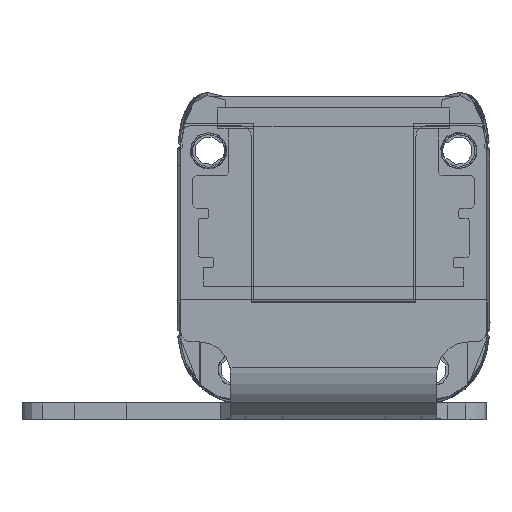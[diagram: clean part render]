
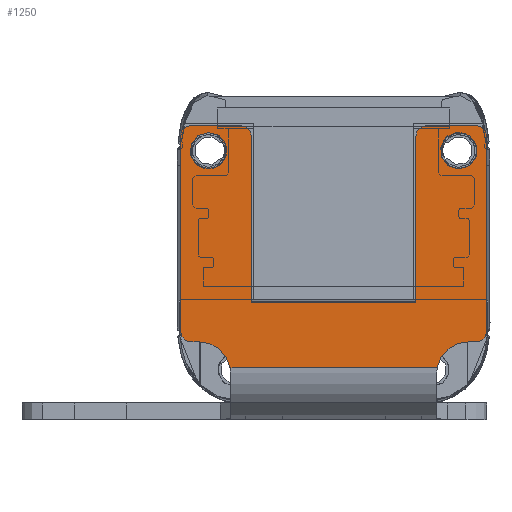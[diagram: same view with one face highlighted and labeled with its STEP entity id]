
A CAD part, front view. The second image highlights one B-rep face of the part: STEP entity #1250.
In plain terms, the highlighted planar face has unit normal (0, -1, 0).
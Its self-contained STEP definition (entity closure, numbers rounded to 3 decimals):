
#1250=ADVANCED_FACE('',(#1940,#1941,#1942),#1528,.T.);
#1528=PLANE('',#9483);
#1833=CIRCLE('',#9473,3.);
#1834=CIRCLE('',#9474,1.);
#1835=CIRCLE('',#9475,1.);
#1836=CIRCLE('',#9476,1.);
#1837=CIRCLE('',#9477,1.);
#1838=CIRCLE('',#9478,1.);
#1839=CIRCLE('',#9479,1.);
#1840=CIRCLE('',#9480,3.);
#1841=CIRCLE('',#9481,1.75);
#1842=CIRCLE('',#9482,1.75);
#1940=FACE_BOUND('',#2406,.T.);
#1941=FACE_BOUND('',#2407,.T.);
#1942=FACE_BOUND('',#2408,.T.);
#2406=EDGE_LOOP('',(#4783,#4784,#4785,#4786,#4787,#4788,#4789,#4790,#4791,
#4792,#4793,#4794,#4795,#4796,#4797,#4798,#4799,#4800));
#2407=EDGE_LOOP('',(#4801));
#2408=EDGE_LOOP('',(#4802));
#4783=ORIENTED_EDGE('',*,*,#7020,.T.);
#4784=ORIENTED_EDGE('',*,*,#7021,.F.);
#4785=ORIENTED_EDGE('',*,*,#7022,.T.);
#4786=ORIENTED_EDGE('',*,*,#7023,.T.);
#4787=ORIENTED_EDGE('',*,*,#7024,.T.);
#4788=ORIENTED_EDGE('',*,*,#7025,.T.);
#4789=ORIENTED_EDGE('',*,*,#7026,.T.);
#4790=ORIENTED_EDGE('',*,*,#7027,.F.);
#4791=ORIENTED_EDGE('',*,*,#7028,.F.);
#4792=ORIENTED_EDGE('',*,*,#7029,.T.);
#4793=ORIENTED_EDGE('',*,*,#7030,.T.);
#4794=ORIENTED_EDGE('',*,*,#7031,.F.);
#4795=ORIENTED_EDGE('',*,*,#7032,.T.);
#4796=ORIENTED_EDGE('',*,*,#7033,.F.);
#4797=ORIENTED_EDGE('',*,*,#7034,.T.);
#4798=ORIENTED_EDGE('',*,*,#7035,.T.);
#4799=ORIENTED_EDGE('',*,*,#7036,.T.);
#4800=ORIENTED_EDGE('',*,*,#7037,.T.);
#4801=ORIENTED_EDGE('',*,*,#7038,.F.);
#4802=ORIENTED_EDGE('',*,*,#7039,.T.);
#5794=VERTEX_POINT('',#15498);
#5795=VERTEX_POINT('',#15499);
#5796=VERTEX_POINT('',#15501);
#5797=VERTEX_POINT('',#15503);
#5798=VERTEX_POINT('',#15505);
#5799=VERTEX_POINT('',#15507);
#5800=VERTEX_POINT('',#15509);
#5801=VERTEX_POINT('',#15511);
#5802=VERTEX_POINT('',#15513);
#5803=VERTEX_POINT('',#15515);
#5804=VERTEX_POINT('',#15517);
#5805=VERTEX_POINT('',#15519);
#5806=VERTEX_POINT('',#15521);
#5807=VERTEX_POINT('',#15523);
#5808=VERTEX_POINT('',#15525);
#5809=VERTEX_POINT('',#15527);
#5810=VERTEX_POINT('',#15529);
#5811=VERTEX_POINT('',#15531);
#5812=VERTEX_POINT('',#15534);
#5813=VERTEX_POINT('',#15536);
#7020=EDGE_CURVE('',#5794,#5795,#1833,.T.);
#7021=EDGE_CURVE('',#5796,#5795,#7899,.T.);
#7022=EDGE_CURVE('',#5796,#5797,#1834,.T.);
#7023=EDGE_CURVE('',#5797,#5798,#7900,.T.);
#7024=EDGE_CURVE('',#5798,#5799,#1835,.T.);
#7025=EDGE_CURVE('',#5799,#5800,#7901,.T.);
#7026=EDGE_CURVE('',#5800,#5801,#1836,.T.);
#7027=EDGE_CURVE('',#5802,#5801,#7902,.T.);
#7028=EDGE_CURVE('',#5803,#5802,#7903,.T.);
#7029=EDGE_CURVE('',#5803,#5804,#7904,.T.);
#7030=EDGE_CURVE('',#5804,#5805,#1837,.T.);
#7031=EDGE_CURVE('',#5806,#5805,#7905,.T.);
#7032=EDGE_CURVE('',#5806,#5807,#1838,.T.);
#7033=EDGE_CURVE('',#5808,#5807,#7906,.T.);
#7034=EDGE_CURVE('',#5808,#5809,#1839,.T.);
#7035=EDGE_CURVE('',#5809,#5810,#7907,.T.);
#7036=EDGE_CURVE('',#5810,#5811,#1840,.T.);
#7037=EDGE_CURVE('',#5811,#5794,#7908,.T.);
#7038=EDGE_CURVE('',#5812,#5812,#1841,.T.);
#7039=EDGE_CURVE('',#5813,#5813,#1842,.T.);
#7899=LINE('',#15500,#8755);
#7900=LINE('',#15504,#8756);
#7901=LINE('',#15508,#8757);
#7902=LINE('',#15512,#8758);
#7903=LINE('',#15514,#8759);
#7904=LINE('',#15516,#8760);
#7905=LINE('',#15520,#8761);
#7906=LINE('',#15524,#8762);
#7907=LINE('',#15528,#8763);
#7908=LINE('',#15532,#8764);
#8755=VECTOR('',#11674,1.);
#8756=VECTOR('',#11677,1.);
#8757=VECTOR('',#11680,1.);
#8758=VECTOR('',#11683,1.);
#8759=VECTOR('',#11684,1.);
#8760=VECTOR('',#11685,1.);
#8761=VECTOR('',#11688,1.);
#8762=VECTOR('',#11691,1.);
#8763=VECTOR('',#11694,1.);
#8764=VECTOR('',#11697,1.);
#9473=AXIS2_PLACEMENT_3D('',#15497,#11672,#11673);
#9474=AXIS2_PLACEMENT_3D('',#15502,#11675,#11676);
#9475=AXIS2_PLACEMENT_3D('',#15506,#11678,#11679);
#9476=AXIS2_PLACEMENT_3D('',#15510,#11681,#11682);
#9477=AXIS2_PLACEMENT_3D('',#15518,#11686,#11687);
#9478=AXIS2_PLACEMENT_3D('',#15522,#11689,#11690);
#9479=AXIS2_PLACEMENT_3D('',#15526,#11692,#11693);
#9480=AXIS2_PLACEMENT_3D('',#15530,#11695,#11696);
#9481=AXIS2_PLACEMENT_3D('',#15533,#11698,#11699);
#9482=AXIS2_PLACEMENT_3D('',#15535,#11700,#11701);
#9483=AXIS2_PLACEMENT_3D('',#15537,#11702,#11703);
#11672=DIRECTION('',(0.,1.,0.));
#11673=DIRECTION('',(0.,0.,1.));
#11674=DIRECTION('',(-1.,0.,0.));
#11675=DIRECTION('',(0.,-1.,0.));
#11676=DIRECTION('',(0.,0.,1.));
#11677=DIRECTION('',(0.,0.,1.));
#11678=DIRECTION('',(0.,-1.,0.));
#11679=DIRECTION('',(0.,0.,-1.));
#11680=DIRECTION('',(-1.,0.,0.));
#11681=DIRECTION('',(0.,-1.,0.));
#11682=DIRECTION('',(0.,0.,-1.));
#11683=DIRECTION('',(0.,0.,1.));
#11684=DIRECTION('',(1.,0.,0.));
#11685=DIRECTION('',(0.,0.,1.));
#11686=DIRECTION('',(0.,-1.,0.));
#11687=DIRECTION('',(0.,0.,1.));
#11688=DIRECTION('',(1.,0.,0.));
#11689=DIRECTION('',(0.,-1.,0.));
#11690=DIRECTION('',(0.,0.,1.));
#11691=DIRECTION('',(0.,0.,1.));
#11692=DIRECTION('',(0.,-1.,0.));
#11693=DIRECTION('',(0.,0.,1.));
#11694=DIRECTION('',(1.,0.,0.));
#11695=DIRECTION('',(0.,1.,0.));
#11696=DIRECTION('',(0.,0.,1.));
#11697=DIRECTION('',(1.,0.,0.));
#11698=DIRECTION('',(0.,-1.,0.));
#11699=DIRECTION('',(0.,0.,1.));
#11700=DIRECTION('',(0.,1.,0.));
#11701=DIRECTION('',(0.,0.,-1.));
#11702=DIRECTION('',(0.,-1.,0.));
#11703=DIRECTION('',(-1.,0.,0.));
#15497=CARTESIAN_POINT('',(12.89,-374.2,-139.533));
#15498=CARTESIAN_POINT('',(9.939,-374.2,-138.994));
#15499=CARTESIAN_POINT('',(12.89,-374.2,-136.533));
#15500=CARTESIAN_POINT('',(-7.89,-374.2,-136.533));
#15501=CARTESIAN_POINT('',(13.69,-374.2,-136.533));
#15502=CARTESIAN_POINT('',(13.69,-374.2,-135.533));
#15503=CARTESIAN_POINT('',(14.69,-374.2,-135.533));
#15504=CARTESIAN_POINT('',(14.69,-374.2,-115.6));
#15505=CARTESIAN_POINT('',(14.69,-374.2,-116.8));
#15506=CARTESIAN_POINT('',(13.69,-374.2,-116.8));
#15507=CARTESIAN_POINT('',(13.69,-374.2,-115.8));
#15508=CARTESIAN_POINT('',(7.89,-374.2,-115.8));
#15509=CARTESIAN_POINT('',(8.89,-374.2,-115.8));
#15510=CARTESIAN_POINT('',(8.89,-374.2,-116.8));
#15511=CARTESIAN_POINT('',(7.89,-374.2,-116.8));
#15512=CARTESIAN_POINT('',(7.89,-374.2,-115.6));
#15513=CARTESIAN_POINT('',(7.89,-374.2,-132.733));
#15514=CARTESIAN_POINT('',(-9.89,-374.2,-132.733));
#15515=CARTESIAN_POINT('',(-7.89,-374.2,-132.733));
#15516=CARTESIAN_POINT('',(-7.89,-374.2,-115.6));
#15517=CARTESIAN_POINT('',(-7.89,-374.2,-116.8));
#15518=CARTESIAN_POINT('',(-8.89,-374.2,-116.8));
#15519=CARTESIAN_POINT('',(-8.89,-374.2,-115.8));
#15520=CARTESIAN_POINT('',(-7.89,-374.2,-115.8));
#15521=CARTESIAN_POINT('',(-13.69,-374.2,-115.8));
#15522=CARTESIAN_POINT('',(-13.69,-374.2,-116.8));
#15523=CARTESIAN_POINT('',(-14.69,-374.2,-116.8));
#15524=CARTESIAN_POINT('',(-14.69,-374.2,-115.6));
#15525=CARTESIAN_POINT('',(-14.69,-374.2,-135.533));
#15526=CARTESIAN_POINT('',(-13.69,-374.2,-135.533));
#15527=CARTESIAN_POINT('',(-13.69,-374.2,-136.533));
#15528=CARTESIAN_POINT('',(-7.89,-374.2,-136.533));
#15529=CARTESIAN_POINT('',(-12.89,-374.2,-136.533));
#15530=CARTESIAN_POINT('',(-12.89,-374.2,-139.533));
#15531=CARTESIAN_POINT('',(-9.939,-374.2,-138.994));
#15532=CARTESIAN_POINT('',(-9.89,-374.2,-138.994));
#15533=CARTESIAN_POINT('',(-12.,-374.2,-118.2));
#15534=CARTESIAN_POINT('',(-12.,-374.2,-116.45));
#15535=CARTESIAN_POINT('',(12.,-374.2,-118.2));
#15536=CARTESIAN_POINT('',(12.,-374.2,-119.95));
#15537=CARTESIAN_POINT('',(-9.89,-374.2,-142.394));
